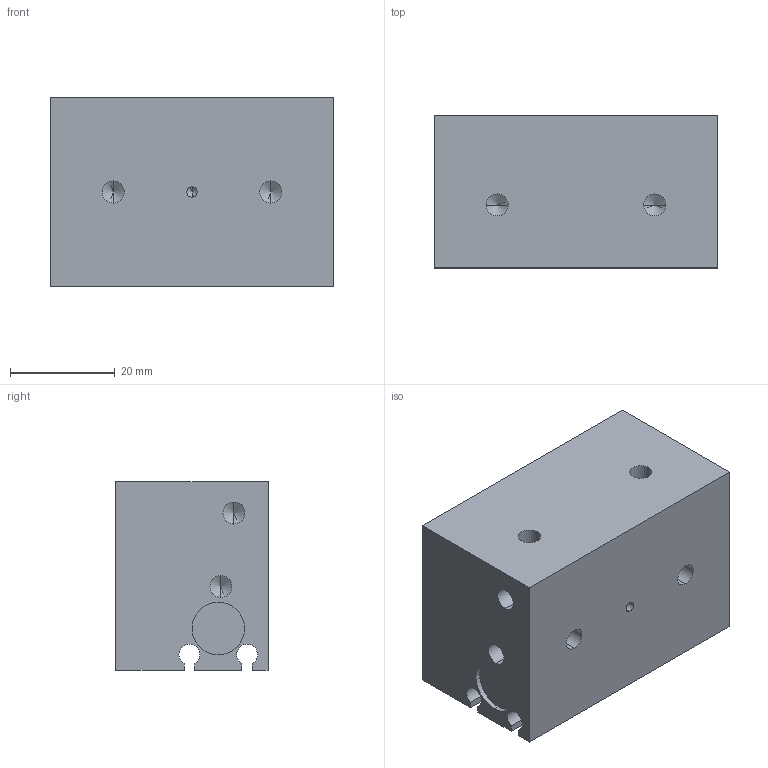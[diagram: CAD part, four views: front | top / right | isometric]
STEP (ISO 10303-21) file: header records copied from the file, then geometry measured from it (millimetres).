
FILE_DESCRIPTION (( 'STEP AP203' ), '1' );
FILE_NAME ('CHU 12 CORP.STEP', '2012-12-12T15:48:12', ( '' ), ( '' ), 'SwSTEP 2.0', 'SolidWorks 2010', '' );
FILE_SCHEMA (( 'CONFIG_CONTROL_DESIGN' ));
Length unit declared in the file: millimetre
Products named in the file (1): CHU 12 CORP
Bounding box: 54 x 29 x 36 mm (x, y, z)
Volume: 44394.3 mm3; surface area: 12508.6 mm2
Topology: 1 solids, 1 shells, 61 faces, 154 edges, 91 vertices
Faces by surface type: cylinder 28, plane 19, cone 14
Entity records: 1811 total; most frequent: DIRECTION 320, CARTESIAN_POINT 293, ORIENTED_EDGE 280, EDGE_CURVE 140, AXIS2_PLACEMENT_3D 118, VERTEX_POINT 91, VECTOR 84, LINE 84
